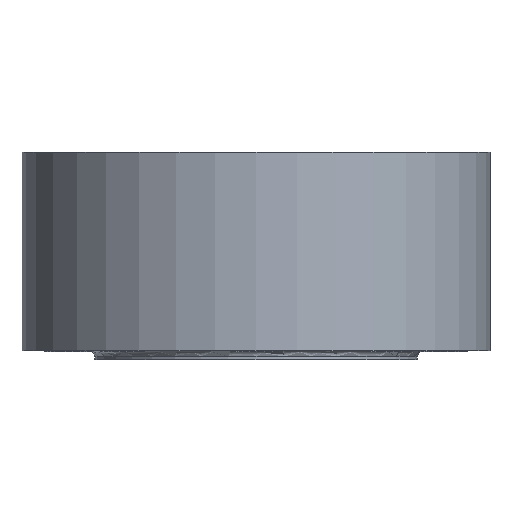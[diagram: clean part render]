
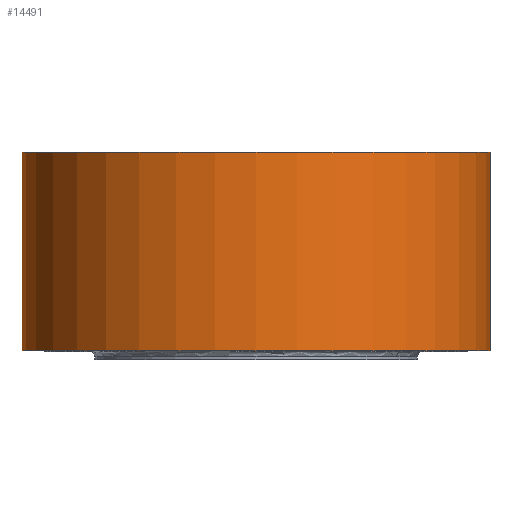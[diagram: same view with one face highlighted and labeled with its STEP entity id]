
A CAD part, front view. The second image highlights one B-rep face of the part: STEP entity #14491.
In plain terms, the highlighted cylindrical face has radius 117.5 mm (diameter 235 mm), a full revolution.
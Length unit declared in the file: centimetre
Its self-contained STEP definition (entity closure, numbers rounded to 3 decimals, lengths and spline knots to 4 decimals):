
#4910=FACE_BOUND('',#6491,.T.);
#5651=FACE_OUTER_BOUND('',#6490,.T.);
#6490=EDGE_LOOP('',(#13669));
#6491=EDGE_LOOP('',(#13670));
#6580=CIRCLE('',#15079,11.75);
#6598=CIRCLE('',#15109,11.75);
#7896=VERTEX_POINT('',#24369);
#7914=VERTEX_POINT('',#24417);
#9833=EDGE_CURVE('',#7896,#7896,#6580,.T.);
#9851=EDGE_CURVE('',#7914,#7914,#6598,.T.);
#13669=ORIENTED_EDGE('',*,*,#9851,.T.);
#13670=ORIENTED_EDGE('',*,*,#9833,.F.);
#13753=CYLINDRICAL_SURFACE('',#15108,11.75);
#14491=ADVANCED_FACE('',(#5651,#4910),#13753,.T.);
#15079=AXIS2_PLACEMENT_3D('',#24370,#17753,#17754);
#15108=AXIS2_PLACEMENT_3D('',#24416,#17811,#17812);
#15109=AXIS2_PLACEMENT_3D('',#24418,#17813,#17814);
#17753=DIRECTION('center_axis',(0.,0.,
1.));
#17754=DIRECTION('ref_axis',(-1.,0.,0.));
#17811=DIRECTION('center_axis',(0.,0.,
1.));
#17812=DIRECTION('ref_axis',(-1.,0.,0.));
#17813=DIRECTION('center_axis',(0.,0.,1.));
#17814=DIRECTION('ref_axis',(-1.,0.,0.));
#24369=CARTESIAN_POINT('',(11.75,0.,7.9));
#24370=CARTESIAN_POINT('Origin',(0.,0.,
7.9));
#24416=CARTESIAN_POINT('Origin',(0.,0.,
5.4));
#24417=CARTESIAN_POINT('',(-11.75,0.,-2.05));
#24418=CARTESIAN_POINT('Origin',(0.,0.,-2.05));
